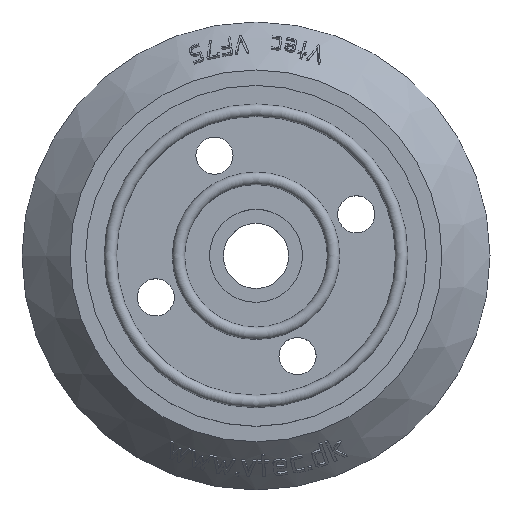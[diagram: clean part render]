
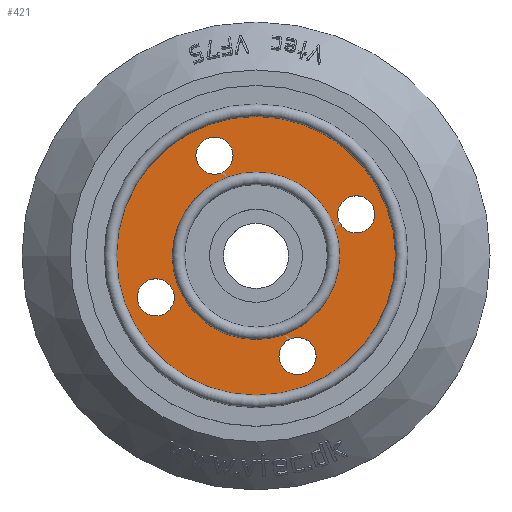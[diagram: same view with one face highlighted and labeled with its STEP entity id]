
A CAD part, top view. The second image highlights one B-rep face of the part: STEP entity #421.
In plain terms, the highlighted planar face has unit normal (0, 0, 1).
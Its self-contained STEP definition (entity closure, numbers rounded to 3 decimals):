
#421 = ADVANCED_FACE( '', ( #1005, #1006, #1007, #1008, #1009, #1010 ), #1011, .T. );
#1005 = FACE_OUTER_BOUND( '', #3190, .T. );
#1006 = FACE_BOUND( '', #3191, .T. );
#1007 = FACE_BOUND( '', #3192, .T. );
#1008 = FACE_BOUND( '', #3193, .T. );
#1009 = FACE_BOUND( '', #3194, .T. );
#1010 = FACE_BOUND( '', #3195, .T. );
#1011 = PLANE( '', #3196 );
#3190 = EDGE_LOOP( '', ( #6713 ) );
#3191 = EDGE_LOOP( '', ( #6714 ) );
#3192 = EDGE_LOOP( '', ( #6715 ) );
#3193 = EDGE_LOOP( '', ( #6716 ) );
#3194 = EDGE_LOOP( '', ( #6717 ) );
#3195 = EDGE_LOOP( '', ( #6718 ) );
#3196 = AXIS2_PLACEMENT_3D( '', #6719, #6720, #6721 );
#6713 = ORIENTED_EDGE( '', *, *, #8625, .T. );
#6714 = ORIENTED_EDGE( '', *, *, #8626, .F. );
#6715 = ORIENTED_EDGE( '', *, *, #8484, .F. );
#6716 = ORIENTED_EDGE( '', *, *, #8627, .F. );
#6717 = ORIENTED_EDGE( '', *, *, #8628, .F. );
#6718 = ORIENTED_EDGE( '', *, *, #8629, .F. );
#6719 = CARTESIAN_POINT( '', ( 13.5, 0., 6.25 ) );
#6720 = DIRECTION( '', ( 0., 0., 1. ) );
#6721 = DIRECTION( '', ( 1., 0., 0. ) );
#8484 = EDGE_CURVE( '', #9496, #9496, #9497, .T. );
#8625 = EDGE_CURVE( '', #9723, #9723, #9724, .F. );
#8626 = EDGE_CURVE( '', #9725, #9725, #9726, .T. );
#8627 = EDGE_CURVE( '', #9727, #9727, #9728, .T. );
#8628 = EDGE_CURVE( '', #9729, #9729, #9730, .T. );
#8629 = EDGE_CURVE( '', #9731, #9731, #9732, .T. );
#9496 = VERTEX_POINT( '', #11355 );
#9497 = CIRCLE( '', #11356, 3. );
#9723 = VERTEX_POINT( '', #11888 );
#9724 = CIRCLE( '', #11889, 22.5 );
#9725 = VERTEX_POINT( '', #11890 );
#9726 = CIRCLE( '', #11891, 13.5 );
#9727 = VERTEX_POINT( '', #11892 );
#9728 = CIRCLE( '', #11893, 3. );
#9729 = VERTEX_POINT( '', #11894 );
#9730 = CIRCLE( '', #11895, 3. );
#9731 = VERTEX_POINT( '', #11896 );
#9732 = CIRCLE( '', #11897, 3. );
#11355 = CARTESIAN_POINT( '', ( -13.168, -6.697, 6.25 ) );
#11356 = AXIS2_PLACEMENT_3D( '', #13689, #13690, #13691 );
#11888 = CARTESIAN_POINT( '', ( -22.5, 0., 6.25 ) );
#11889 = AXIS2_PLACEMENT_3D( '', #13807, #13808, #13809 );
#11890 = CARTESIAN_POINT( '', ( 13.5, 0., 6.25 ) );
#11891 = AXIS2_PLACEMENT_3D( '', #13810, #13811, #13812 );
#11892 = CARTESIAN_POINT( '', ( 9.697, -16.168, 6.25 ) );
#11893 = AXIS2_PLACEMENT_3D( '', #13813, #13814, #13815 );
#11894 = CARTESIAN_POINT( '', ( 19.168, 6.697, 6.25 ) );
#11895 = AXIS2_PLACEMENT_3D( '', #13816, #13817, #13818 );
#11896 = CARTESIAN_POINT( '', ( -3.697, 16.168, 6.25 ) );
#11897 = AXIS2_PLACEMENT_3D( '', #13819, #13820, #13821 );
#13689 = CARTESIAN_POINT( '', ( -16.168, -6.697, 6.25 ) );
#13690 = DIRECTION( '', ( 0., 0., 1. ) );
#13691 = DIRECTION( '', ( 1., 0., 0. ) );
#13807 = CARTESIAN_POINT( '', ( 0., 0., 6.25 ) );
#13808 = DIRECTION( '', ( 0., 0., -1. ) );
#13809 = DIRECTION( '', ( -1., 0., 0. ) );
#13810 = CARTESIAN_POINT( '', ( 0., 0., 6.25 ) );
#13811 = DIRECTION( '', ( 0., 0., 1. ) );
#13812 = DIRECTION( '', ( 1., 0., 0. ) );
#13813 = CARTESIAN_POINT( '', ( 6.697, -16.168, 6.25 ) );
#13814 = DIRECTION( '', ( 0., 0., 1. ) );
#13815 = DIRECTION( '', ( 1., 0., 0. ) );
#13816 = CARTESIAN_POINT( '', ( 16.168, 6.697, 6.25 ) );
#13817 = DIRECTION( '', ( 0., 0., 1. ) );
#13818 = DIRECTION( '', ( 1., 0., 0. ) );
#13819 = CARTESIAN_POINT( '', ( -6.697, 16.168, 6.25 ) );
#13820 = DIRECTION( '', ( 0., 0., 1. ) );
#13821 = DIRECTION( '', ( 1., 0., 0. ) );
